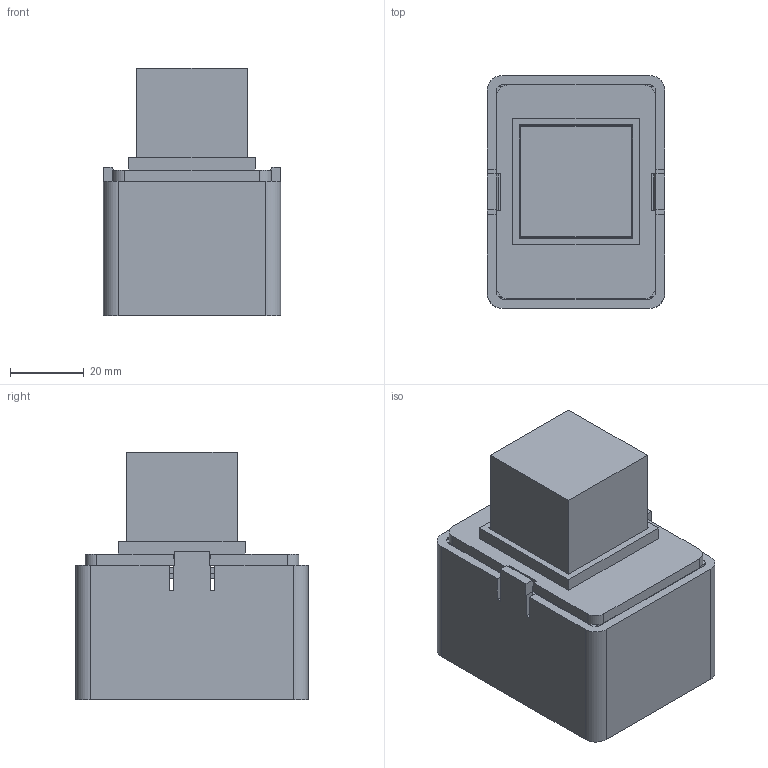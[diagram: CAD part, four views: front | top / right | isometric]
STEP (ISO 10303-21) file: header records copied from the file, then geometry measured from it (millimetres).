
FILE_DESCRIPTION(('Open CASCADE Model'),'2;1');
FILE_NAME('Open CASCADE Shape Model','2026-08-25T22:11:23',('Author'),( 'Open CASCADE'),'Open CASCADE STEP processor 7.8','Open CASCADE 7.8' ,'Unknown');
FILE_SCHEMA(('AUTOMOTIVE_DESIGN { 1 0 10303 214 1 1 1 1 }'));
Length unit declared in the file: millimetre
Products named in the file (10): support_free_v2; base; snap_in_optical_frame; oled_pcb; oled_panel; oled_dupont; esp32; esp_dupont_left; esp_dupont_right; prism
Assembly tree (9 placements, depth 2):
  support_free_v2
    base
    snap_in_optical_frame
    oled_pcb
    oled_panel
    oled_dupont
    esp32
    esp_dupont_left
    esp_dupont_right
    prism
Bounding box: 48 x 63 x 67.1 mm (x, y, z)
Volume: 66903.7 mm3; surface area: 44339.9 mm2
Topology: 9 solids, 9 shells, 234 faces, 583 edges, 384 vertices
Faces by surface type: plane 194, cylinder 28, cone 8, bspline 4
Full cylindrical faces by diameter (mm): 1.9 x4, 2.2 x4, 5.2 x4
Entity records: 14534 total; most frequent: CARTESIAN_POINT 2671, DIRECTION 2111, LINE 1467, VECTOR 1467, ORIENTED_EDGE 1166, PCURVE 1166, DEFINITIONAL_REPRESENTATION 1166, EDGE_CURVE 583
